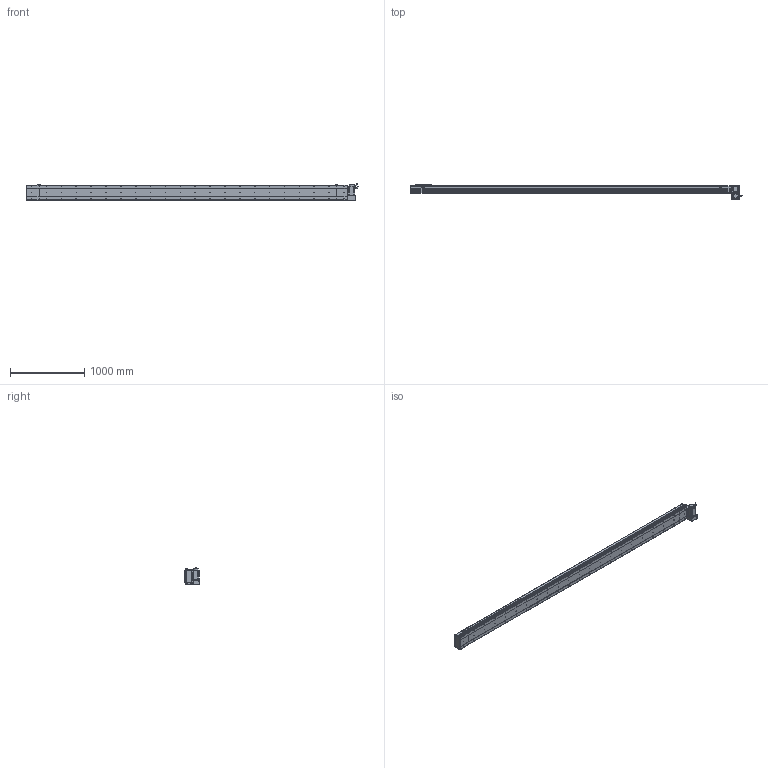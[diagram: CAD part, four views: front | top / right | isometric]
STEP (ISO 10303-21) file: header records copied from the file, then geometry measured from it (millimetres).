
FILE_DESCRIPTION (( 'STEP AP214' ), '1' );
FILE_NAME ('D20 CBH RU S4000.STEP', '2010-06-30T11:18:05', ( 'Conseil Régional Haute-Normandie' ), ( 'Conseil Régional Haute-Normandie' ), 'SwSTEP 2.0', 'SolidWorks 2010', '' );
FILE_SCHEMA (( 'AUTOMOTIVE_DESIGN' ));
Length unit declared in the file: millimetre
Products named in the file (31): vis M5 L15_Default; Plaque De Serrage D20_Default; Plaque de Bout Tail D20_Default; Couvercle_Default; Corp Tail D20_Default; Tail D20_Default; Glissiere_Default; Chariot D20_Default; Support Chariot D20_Default; vis M5 L30_Default; Couvercle S4000_Default; Corp S4000_Default; Corp D20 S4000_Default; vis M5 L47_Default; ecrou_Default; Head RU_Default; D20 CBH RU S4000; Corp Tail D20 RU_Default; Support moteur RU_Default; Plaque de Bout Head D20 RU_Default; Cache Support Moteur RU_Default; Plaque De Serrage D20 RU_Default; Couvercle RU_Default; avant 90BLDC125A-640; Moteur motionking 90BLDC125A-640; Rondelle Cache D20 RU_Default; Conecteur_Default; Conecteur2_Default; codeur 90BLDC125-640; corps 90BLDC125A-640
Assembly tree (66 placements, depth 4):
  D20 CBH RU S4000
    Chariot D20_Default
      Chariot D20_Default
      vis M5 L15_Default  x8
      Glissiere_Default
      Support Chariot D20_Default
    Tail D20_Default
      Couvercle_Default
      vis M5 L15_Default  x6
      Plaque De Serrage D20_Default
      Plaque de Bout Tail D20_Default
      Corp Tail D20_Default
    Corp D20 S4000_Default
      Corp S4000_Default
      Couvercle S4000_Default
    Head RU_Default
      vis M5 L47_Default  x4
      ecrou_Default  x4
      vis M5 L15_Default  x12
      Corp Tail D20 RU_Default
      vis M5 L30_Default  x4
      Plaque De Serrage D20 RU_Default
      Rondelle Cache D20 RU_Default  x3
      Moteur motionking 90BLDC125A-640
        Conecteur_Default
        Conecteur2_Default
        corps 90BLDC125A-640
        avant 90BLDC125A-640
        codeur 90BLDC125-640
      Support moteur RU_Default
      Plaque de Bout Head D20 RU_Default
      Cache Support Moteur RU_Default
      Couvercle RU_Default
Bounding box: 4464.45 x 209 x 229.7 mm (x, y, z)
Volume: 29558836 mm3; surface area: 5631280.2 mm2
Topology: 103 solids, 103 shells, 3859 faces, 9578 edges, 6226 vertices
Faces by surface type: plane 2126, bspline 806, cylinder 764, torus 91, cone 68, sphere 4
Entity records: 161806 total; most frequent: CARTESIAN_POINT 82701, ORIENTED_EDGE 15624, DIRECTION 12090, EDGE_CURVE 7812, VERTEX_POINT 5170, VECTOR 4996, LINE 4996, AXIS2_PLACEMENT_3D 3547
